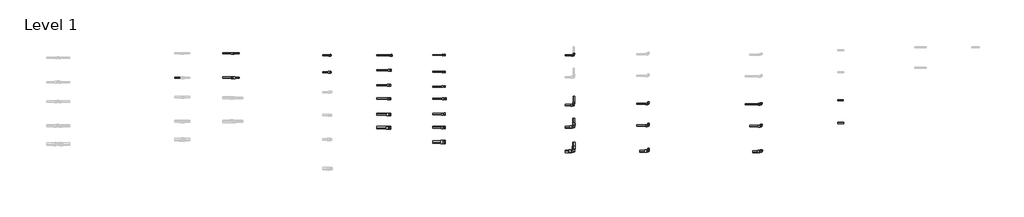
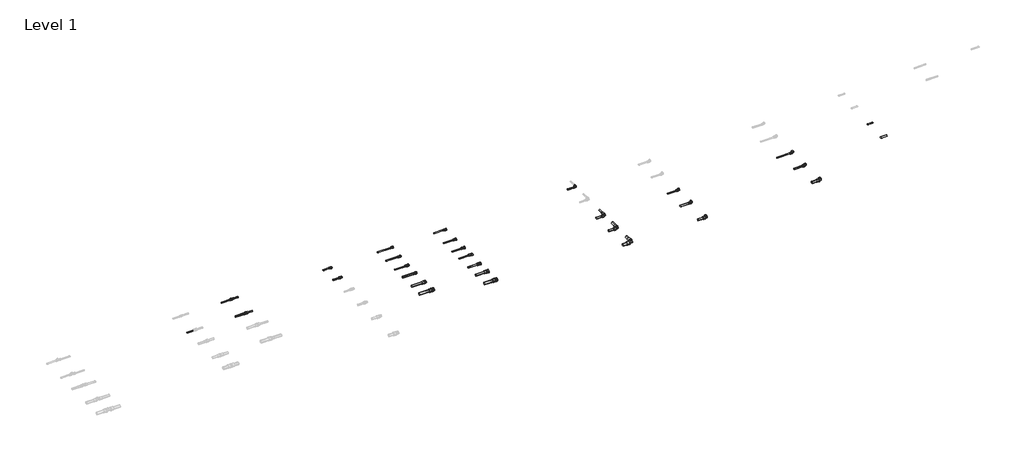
# One storey, part 5 of 78: 35 pipe segments, 27 pipe fittings.
"""IFC4 building model written with IfcOpenShell, lengths in millimetres."""

from ifc_helpers import new_model, si_unit, point, frame, frame_2d, origin, place, context, project, spatial, circle_curve, trimmed, segment, composite_curve, outline, extrude, transform, mapped, element, save
from components import pipe_fitting_bf755f27, pipe_fitting_e93012df, pipe_fitting_836a2278, pipe_fitting_b55198ad, pipe_fitting_310333dd, pipe_fitting_0b32e4b0, pipe_fitting_0562571e, pipe_fitting_38e91122, pipe_fitting_a340ff43, pipe_fitting_d52baa13, pipe_fitting_c8bca06d, pipe_fitting_5bbd4ca1, pipe_fitting_80b7091b, pipe_fitting_ce7225c3, pipe_fitting_5776f994, pipe_fitting_edf19c19, pipe_fitting_f2230aa0, pipe_fitting_b873231b, pipe_fitting_68aa3d98, pipe_fitting_ea484583, pipe_fitting_c3764643, pipe_fitting_108ee799, pipe_fitting_f8d70d0e, pipe_fitting_18fcccac, pipe_fitting_1e296f3b, pipe_fitting_f7ee4d9f, pipe_fitting_52b87474

model = new_model("IFC4")

# Units and contexts
model_context = context("Model", 3, world=origin())
ifc_project = project(units=[si_unit("LENGTHUNIT", "METRE", prefix="MILLI")], contexts=[model_context])

# Site, building, storey
site = spatial("IfcSite", under=ifc_project)
building = spatial("IfcBuilding", under=site)
storey = spatial("IfcBuildingStorey", under=building, Name="Level 1", Elevation=0.0)

# Pipe fittings
placement = place(None, origin())
pipe_fitting_shape = pipe_fitting_bf755f27(model_context)
element("IfcPipeFitting", 1, ObjectType="FASTLOC_Adapter with union nut LX : FSL A union nut PL", at=placement, inside=storey, context=model_context, shape_type="MappedRepresentation", body=[
    mapped(pipe_fitting_shape, transform((9398.6473432, -36725.8136389, 0.0), x_axis=(1.0, 0.0, 0.0), y_axis=(0.0, 1.0, 0.0), z_axis=(0.0, 0.0, 1.0))),
])
pipe_fitting_2_shape = pipe_fitting_e93012df(model_context)
element("IfcPipeFitting", 2, ObjectType="FASTLOC_Adapter_LX, with external thread : FSL A C external PL", at=placement, inside=storey, context=model_context, shape_type="MappedRepresentation", body=[
    mapped(pipe_fitting_2_shape, transform((7526.3785179, -35535.7057457, 0.0), x_axis=(1.0, 0.0, 0.0), y_axis=(0.0, 1.0, 0.0), z_axis=(0.0, 0.0, 1.0))),
])
pipe_fitting_3_shape = pipe_fitting_836a2278(model_context)
element("IfcPipeFitting", 3, ObjectType="FASTLOC_Adapter_LX, with internal thread : FSL A internal PL", at=placement, inside=storey, context=model_context, shape_type="MappedRepresentation", body=[
    mapped(pipe_fitting_3_shape, transform((8533.3731945, -35535.7057457, 0.0), x_axis=(1.0, 0.0, 0.0), y_axis=(0.0, 1.0, 0.0), z_axis=(0.0, 0.0, 1.0))),
])
pipe_fitting_4_shape = pipe_fitting_b55198ad(model_context)
element("IfcPipeFitting", 4, ObjectType="FASTLOC_Corner LX : FSL C LX PL", at=placement, inside=storey, context=model_context, shape_type="MappedRepresentation", body=[
    mapped(pipe_fitting_4_shape, transform((11545.4707441, -35538.8136389, 0.0), x_axis=(1.0, 0.0, 0.0), y_axis=(0.0, 1.0, 0.0), z_axis=(0.0, 0.0, 1.0))),
])
pipe_fitting_5_shape = pipe_fitting_310333dd(model_context)
element("IfcPipeFitting", 5, ObjectType="FASTLOC_Elbow with male thread LX : FSL A internal PL", at=placement, inside=storey, context=model_context, shape_type="MappedRepresentation", body=[
    mapped(pipe_fitting_5_shape, transform((12775.3768734, -36336.7136389, 0.0), x_axis=(1.0, 0.0, 0.0), y_axis=(0.0, 1.0, 0.0), z_axis=(0.0, 0.0, 1.0))),
])
pipe_fitting_6_shape = pipe_fitting_0b32e4b0(model_context)
element("IfcPipeFitting", 6, ObjectType="FASTLOC_Coupling reduced LX : FSL C LX PL", at=placement, inside=storey, context=model_context, shape_type="MappedRepresentation", body=[
    mapped(pipe_fitting_6_shape, transform((5926.6928556, -35505.8821283, 0.0), x_axis=(1.0, 0.0, 0.0), y_axis=(0.0, 1.0, 0.0), z_axis=(0.0, 0.0, 1.0))),
])
pipe_fitting_7_shape = pipe_fitting_0562571e(model_context)
element("IfcPipeFitting", 7, ObjectType="FASTLOC_Coupling reduced LX : FSL C LX PL", at=placement, inside=storey, context=model_context, shape_type="MappedRepresentation", body=[
    mapped(pipe_fitting_7_shape, transform((5926.6928556, -35905.8821283, 0.0), x_axis=(1.0, 0.0, 0.0), y_axis=(0.0, 1.0, 0.0), z_axis=(0.0, 0.0, 1.0))),
])
pipe_fitting_8_shape = pipe_fitting_38e91122(model_context)
element("IfcPipeFitting", 8, ObjectType="FASTLOC_Adapter_LX, with external thread : FSL A C external PL", at=placement, inside=storey, context=model_context, shape_type="MappedRepresentation", body=[
    mapped(pipe_fitting_8_shape, transform((7526.8953131, -35814.2068389, 0.0), x_axis=(1.0, 0.0, 0.0), y_axis=(0.0, 1.0, 0.0), z_axis=(0.0, 0.0, 1.0))),
])
pipe_fitting_9_shape = pipe_fitting_a340ff43(model_context)
element("IfcPipeFitting", 9, ObjectType="FASTLOC_Adapter with union nut LX : FSL A union nut PL", at=placement, inside=storey, context=model_context, shape_type="MappedRepresentation", body=[
    mapped(pipe_fitting_9_shape, transform((9398.6473432, -35810.8136389, 0.0), x_axis=(1.0, 0.0, 0.0), y_axis=(0.0, 1.0, 0.0), z_axis=(0.0, 0.0, 1.0))),
])
pipe_fitting_10_shape = pipe_fitting_d52baa13(model_context)
element("IfcPipeFitting", 10, ObjectType="FASTLOC_Adapter with union nut LX : FSL A union nut PL", at=placement, inside=storey, context=model_context, shape_type="MappedRepresentation", body=[
    mapped(pipe_fitting_10_shape, transform((9398.6473432, -36050.8136389, 0.0), x_axis=(1.0, 0.0, 0.0), y_axis=(0.0, 1.0, 0.0), z_axis=(0.0, 0.0, 1.0))),
])
pipe_fitting_11_shape = pipe_fitting_c8bca06d(model_context)
element("IfcPipeFitting", 11, ObjectType="FASTLOC_Adapter with union nut LX : FSL A union nut PL", at=placement, inside=storey, context=model_context, shape_type="MappedRepresentation", body=[
    mapped(pipe_fitting_11_shape, transform((9412.7894788, -36251.6715032, 0.0), x_axis=(1.0, 0.0, 0.0), y_axis=(0.0, 1.0, 0.0), z_axis=(0.0, 0.0, 1.0))),
])
pipe_fitting_12_shape = pipe_fitting_5bbd4ca1(model_context)
element("IfcPipeFitting", 12, ObjectType="FASTLOC_Adapter with union nut LX : FSL A union nut PL", at=placement, inside=storey, context=model_context, shape_type="MappedRepresentation", body=[
    mapped(pipe_fitting_12_shape, transform((9398.6473432, -36505.8136389, 0.0), x_axis=(1.0, 0.0, 0.0), y_axis=(0.0, 1.0, 0.0), z_axis=(0.0, 0.0, 1.0))),
])
pipe_fitting_13_shape = pipe_fitting_80b7091b(model_context)
element("IfcPipeFitting", 13, ObjectType="FASTLOC_Adapter with union nut LX : FSL A union nut PL", at=placement, inside=storey, context=model_context, shape_type="MappedRepresentation", body=[
    mapped(pipe_fitting_13_shape, transform((9398.6473432, -36965.8136389, 0.0), x_axis=(1.0, 0.0, 0.0), y_axis=(0.0, 1.0, 0.0), z_axis=(0.0, 0.0, 1.0))),
])
pipe_fitting_14_shape = pipe_fitting_ce7225c3(model_context)
element("IfcPipeFitting", 14, ObjectType="FASTLOC_Adapter with union nut LX : FSL A union nut PL", at=placement, inside=storey, context=model_context, shape_type="MappedRepresentation", body=[
    mapped(pipe_fitting_14_shape, transform((9398.6473432, -35530.8136389, 0.0), x_axis=(1.0, 0.0, 0.0), y_axis=(0.0, 1.0, 0.0), z_axis=(0.0, 0.0, 1.0))),
])
pipe_fitting_15_shape = pipe_fitting_5776f994(model_context)
element("IfcPipeFitting", 15, ObjectType="FASTLOC_Corner LX : FSL C LX PL", at=placement, inside=storey, context=model_context, shape_type="MappedRepresentation", body=[
    mapped(pipe_fitting_15_shape, transform((11545.4707441, -36358.8136389, 0.0), x_axis=(1.0, 0.0, 0.0), y_axis=(0.0, 1.0, 0.0), z_axis=(0.0, 0.0, 1.0))),
])
pipe_fitting_16_shape = pipe_fitting_edf19c19(model_context)
element("IfcPipeFitting", 16, ObjectType="FASTLOC_Corner LX : FSL C LX PL", at=placement, inside=storey, context=model_context, shape_type="MappedRepresentation", body=[
    mapped(pipe_fitting_16_shape, transform((11545.4707441, -36718.8136389, 0.0), x_axis=(1.0, 0.0, 0.0), y_axis=(0.0, 1.0, 0.0), z_axis=(0.0, 0.0, 1.0))),
])
pipe_fitting_17_shape = pipe_fitting_f2230aa0(model_context)
element("IfcPipeFitting", 17, ObjectType="FASTLOC_Corner LX : FSL C LX PL", at=placement, inside=storey, context=model_context, shape_type="MappedRepresentation", body=[
    mapped(pipe_fitting_17_shape, transform((11545.4707441, -37118.8136389, 0.0), x_axis=(1.0, 0.0, 0.0), y_axis=(0.0, 1.0, 0.0), z_axis=(0.0, 0.0, 1.0))),
])
pipe_fitting_18_shape = pipe_fitting_b873231b(model_context)
element("IfcPipeFitting", 18, ObjectType="FASTLOC_Elbow with male thread LX : FSL A internal PL", at=placement, inside=storey, context=model_context, shape_type="MappedRepresentation", body=[
    mapped(pipe_fitting_18_shape, transform((12775.3768734, -36696.7136389, 0.0), x_axis=(1.0, 0.0, 0.0), y_axis=(0.0, 1.0, 0.0), z_axis=(0.0, 0.0, 1.0))),
])
pipe_fitting_19_shape = pipe_fitting_68aa3d98(model_context)
element("IfcPipeFitting", 19, ObjectType="FASTLOC_Elbow with male thread LX : FSL A internal PL", at=placement, inside=storey, context=model_context, shape_type="MappedRepresentation", body=[
    mapped(pipe_fitting_19_shape, transform((12775.3768734, -37116.7136389, 0.0), x_axis=(1.0, 0.0, 0.0), y_axis=(0.0, 1.0, 0.0), z_axis=(0.0, 0.0, 1.0))),
])
pipe_fitting_20_shape = pipe_fitting_ea484583(model_context)
element("IfcPipeFitting", 20, ObjectType="FASTLOC_Elbow with female thread LX : FSL A internal PL", at=placement, inside=storey, context=model_context, shape_type="MappedRepresentation", body=[
    mapped(pipe_fitting_20_shape, transform((14636.9744513, -36704.4914884, 0.0), x_axis=(1.0, 0.0, 0.0), y_axis=(0.0, 1.0, 0.0), z_axis=(0.0, 0.0, 1.0))),
])
pipe_fitting_21_shape = pipe_fitting_c3764643(model_context)
element("IfcPipeFitting", 21, ObjectType="FASTLOC_Elbow with female thread LX : FSL A internal PL", at=placement, inside=storey, context=model_context, shape_type="MappedRepresentation", body=[
    mapped(pipe_fitting_21_shape, transform((14636.9744513, -37124.4914884, 0.0), x_axis=(1.0, 0.0, 0.0), y_axis=(0.0, 1.0, 0.0), z_axis=(0.0, 0.0, 1.0))),
])
pipe_fitting_22_shape = pipe_fitting_108ee799(model_context)
element("IfcPipeFitting", 22, ObjectType="FASTLOC_Elbow with female thread LX : FSL A internal PL", at=placement, inside=storey, context=model_context, shape_type="MappedRepresentation", body=[
    mapped(pipe_fitting_22_shape, transform((14636.9744513, -36344.4914884, 0.0), x_axis=(1.0, 0.0, 0.0), y_axis=(0.0, 1.0, 0.0), z_axis=(0.0, 0.0, 1.0))),
])
pipe_fitting_23_shape = pipe_fitting_f8d70d0e(model_context)
element("IfcPipeFitting", 23, ObjectType="FASTLOC_Adapter_LX, with internal thread : FSL A internal PL", at=placement, inside=storey, context=model_context, shape_type="MappedRepresentation", body=[
    mapped(pipe_fitting_23_shape, transform((8504.2310589, -36029.8478813, 0.0), x_axis=(1.0, 0.0, 0.0), y_axis=(0.0, 1.0, 0.0), z_axis=(0.0, 0.0, 1.0))),
])
pipe_fitting_24_shape = pipe_fitting_18fcccac(model_context)
element("IfcPipeFitting", 24, ObjectType="FASTLOC_Adapter_LX, with internal thread : FSL A internal PL", at=placement, inside=storey, context=model_context, shape_type="MappedRepresentation", body=[
    mapped(pipe_fitting_24_shape, transform((8504.2310589, -36249.8478813, 0.0), x_axis=(1.0, 0.0, 0.0), y_axis=(0.0, 1.0, 0.0), z_axis=(0.0, 0.0, 1.0))),
])
pipe_fitting_25_shape = pipe_fitting_1e296f3b(model_context)
element("IfcPipeFitting", 25, ObjectType="FASTLOC_Adapter_LX, with internal thread : FSL A internal PL", at=placement, inside=storey, context=model_context, shape_type="MappedRepresentation", body=[
    mapped(pipe_fitting_25_shape, transform((8504.2310589, -36509.8478813, 0.0), x_axis=(1.0, 0.0, 0.0), y_axis=(0.0, 1.0, 0.0), z_axis=(0.0, 0.0, 1.0))),
])
pipe_fitting_26_shape = pipe_fitting_f7ee4d9f(model_context)
element("IfcPipeFitting", 26, ObjectType="FASTLOC_Adapter_LX, with internal thread : FSL A internal PL", at=placement, inside=storey, context=model_context, shape_type="MappedRepresentation", body=[
    mapped(pipe_fitting_26_shape, transform((8520.9731945, -35782.1624685, 0.0), x_axis=(1.0, 0.0, 0.0), y_axis=(0.0, 1.0, 0.0), z_axis=(0.0, 0.0, 1.0))),
])
pipe_fitting_27_shape = pipe_fitting_52b87474(model_context)
element("IfcPipeFitting", 27, ObjectType="FASTLOC_Adapter_LX, with internal thread : FSL A internal PL", at=placement, inside=storey, context=model_context, shape_type="MappedRepresentation", body=[
    mapped(pipe_fitting_27_shape, transform((8504.2310589, -36729.8478813, 0.0), x_axis=(1.0, 0.0, 0.0), y_axis=(0.0, 1.0, 0.0), z_axis=(0.0, 0.0, 1.0))),
])

# Pipe segments
element("IfcPipeSegment", 28, ObjectType="FASTLOC LX ML PL bar", at=placement, inside=storey, context=model_context, shape_type="SweptSolid", body=[
    extrude(outline(composite_curve([segment(trimmed(circle_curve(frame_2d((-35905.8821283, 0.0)), 8.0), [point((-35897.8821283, 0.0))], [point((-35905.8821283, -8.0))], False, "CARTESIAN"), True, "CONTINUOUS"), segment(trimmed(circle_curve(frame_2d((-35905.8821283, 0.0)), 8.0), [point((-35905.8821283, -8.0))], [point((-35913.8821283, 0.0))], False, "CARTESIAN"), True, "CONTINUOUS"), segment(trimmed(circle_curve(frame_2d((-35905.8821283, 0.0)), 8.0), [point((-35913.8821283, 0.0))], [point((-35905.8821283, 8.0))], False, "CARTESIAN"), True, "CONTINUOUS"), segment(trimmed(circle_curve(frame_2d((-35905.8821283, 0.0)), 8.0), [point((-35905.8821283, 8.0))], [point((-35897.8821283, 0.0))], False, "CARTESIAN"), True, "CONTINUOUS")], self_intersect=False)), frame((4961.1790161, 0.0, 0.0), z_axis=(1.0, 0.0, 0.0), x_axis=(0.0, 1.0, 0.0)), (0.0, 0.0, 1.0), 119.8),
])
element("IfcPipeSegment", 29, ObjectType="FASTLOC LX ML PL bar", at=placement, inside=storey, context=model_context, shape_type="SweptSolid", body=[
    extrude(outline(composite_curve([segment(trimmed(circle_curve(frame_2d((-35505.8821283, 0.0)), 8.0), [point((-35513.8821283, 0.0))], [point((-35505.8821283, 8.0))], False, "CARTESIAN"), True, "CONTINUOUS"), segment(trimmed(circle_curve(frame_2d((-35505.8821283, 0.0)), 8.0), [point((-35505.8821283, 8.0))], [point((-35497.8821283, 0.0))], False, "CARTESIAN"), True, "CONTINUOUS"), segment(trimmed(circle_curve(frame_2d((-35505.8821283, 0.0)), 8.0), [point((-35497.8821283, 0.0))], [point((-35505.8821283, -8.0))], False, "CARTESIAN"), True, "CONTINUOUS"), segment(trimmed(circle_curve(frame_2d((-35505.8821283, 0.0)), 8.0), [point((-35505.8821283, -8.0))], [point((-35513.8821283, 0.0))], False, "CARTESIAN"), True, "CONTINUOUS")], self_intersect=False)), frame((5932.9928556, 0.0, 0.0), z_axis=(1.0, 0.0, 0.0), x_axis=(0.0, 1.0, 0.0)), (0.0, 0.0, 1.0), 95.0),
])
element("IfcPipeSegment", 30, ObjectType="FASTLOC LX ML PL bar", at=placement, inside=storey, context=model_context, shape_type="SweptSolid", body=[
    extrude(outline(composite_curve([segment(trimmed(circle_curve(frame_2d((-35505.8821283, 0.0)), 8.0), [point((-35497.8821283, 0.0))], [point((-35505.8821283, -8.0))], False, "CARTESIAN"), True, "CONTINUOUS"), segment(trimmed(circle_curve(frame_2d((-35505.8821283, 0.0)), 8.0), [point((-35505.8821283, -8.0))], [point((-35513.8821283, 0.0))], False, "CARTESIAN"), True, "CONTINUOUS"), segment(trimmed(circle_curve(frame_2d((-35505.8821283, 0.0)), 8.0), [point((-35513.8821283, 0.0))], [point((-35505.8821283, 8.0))], False, "CARTESIAN"), True, "CONTINUOUS"), segment(trimmed(circle_curve(frame_2d((-35505.8821283, 0.0)), 8.0), [point((-35505.8821283, 8.0))], [point((-35497.8821283, 0.0))], False, "CARTESIAN"), True, "CONTINUOUS")], self_intersect=False)), frame((5752.9928556, 0.0, 0.0), z_axis=(1.0, 0.0, 0.0), x_axis=(0.0, 1.0, 0.0)), (0.0, 0.0, 1.0), 165.0),
])
element("IfcPipeSegment", 31, ObjectType="FASTLOC LX ML PL bar", at=placement, inside=storey, context=model_context, shape_type="SweptSolid", body=[
    extrude(outline(composite_curve([segment(trimmed(circle_curve(frame_2d((-35905.8821283, 0.0)), 12.5), [point((-35893.3821283, 0.0))], [point((-35905.8821283, -12.5))], False, "CARTESIAN"), True, "CONTINUOUS"), segment(trimmed(circle_curve(frame_2d((-35905.8821283, 0.0)), 12.5), [point((-35905.8821283, -12.5))], [point((-35918.3821283, 0.0))], False, "CARTESIAN"), True, "CONTINUOUS"), segment(trimmed(circle_curve(frame_2d((-35905.8821283, 0.0)), 12.5), [point((-35918.3821283, 0.0))], [point((-35905.8821283, 12.5))], False, "CARTESIAN"), True, "CONTINUOUS"), segment(trimmed(circle_curve(frame_2d((-35905.8821283, 0.0)), 12.5), [point((-35905.8821283, 12.5))], [point((-35893.3821283, 0.0))], False, "CARTESIAN"), True, "CONTINUOUS")], self_intersect=False)), frame((5752.9928556, 0.0, 0.0), z_axis=(1.0, 0.0, 0.0), x_axis=(0.0, 1.0, 0.0)), (0.0, 0.0, 1.0), 163.9),
])
element("IfcPipeSegment", 32, ObjectType="FASTLOC LX ML PL bar", at=placement, inside=storey, context=model_context, shape_type="SweptSolid", body=[
    extrude(outline(composite_curve([segment(trimmed(circle_curve(frame_2d((-35905.8821283, 0.0)), 8.0), [point((-35913.8821283, 0.0))], [point((-35905.8821283, 8.0))], False, "CARTESIAN"), True, "CONTINUOUS"), segment(trimmed(circle_curve(frame_2d((-35905.8821283, 0.0)), 8.0), [point((-35905.8821283, 8.0))], [point((-35897.8821283, 0.0))], False, "CARTESIAN"), True, "CONTINUOUS"), segment(trimmed(circle_curve(frame_2d((-35905.8821283, 0.0)), 8.0), [point((-35897.8821283, 0.0))], [point((-35905.8821283, -8.0))], False, "CARTESIAN"), True, "CONTINUOUS"), segment(trimmed(circle_curve(frame_2d((-35905.8821283, 0.0)), 8.0), [point((-35905.8821283, -8.0))], [point((-35913.8821283, 0.0))], False, "CARTESIAN"), True, "CONTINUOUS")], self_intersect=False)), frame((5932.3928556, 0.0, 0.0), z_axis=(1.0, 0.0, 0.0), x_axis=(0.0, 1.0, 0.0)), (0.0, 0.0, 1.0), 95.6),
])
element("IfcPipeSegment", 33, ObjectType="FASTLOC LX ML PL bar", at=placement, inside=storey, context=model_context, shape_type="SweptSolid", body=[
    extrude(outline(composite_curve([segment(trimmed(circle_curve(frame_2d((-35535.7057457, 0.0)), 8.0), [point((-35527.7057457, 0.0))], [point((-35535.7057457, -8.0))], False, "CARTESIAN"), True, "CONTINUOUS"), segment(trimmed(circle_curve(frame_2d((-35535.7057457, 0.0)), 8.0), [point((-35535.7057457, -8.0))], [point((-35543.7057457, 0.0))], False, "CARTESIAN"), True, "CONTINUOUS"), segment(trimmed(circle_curve(frame_2d((-35535.7057457, 0.0)), 8.0), [point((-35543.7057457, 0.0))], [point((-35535.7057457, 8.0))], False, "CARTESIAN"), True, "CONTINUOUS"), segment(trimmed(circle_curve(frame_2d((-35535.7057457, 0.0)), 8.0), [point((-35535.7057457, 8.0))], [point((-35527.7057457, 0.0))], False, "CARTESIAN"), True, "CONTINUOUS")], self_intersect=False)), frame((7402.0785179, 0.0, 0.0), z_axis=(1.0, 0.0, 0.0), x_axis=(0.0, 1.0, 0.0)), (0.0, 0.0, 1.0), 115.4),
])
element("IfcPipeSegment", 34, ObjectType="FASTLOC LX ML PL bar", at=placement, inside=storey, context=model_context, shape_type="SweptSolid", body=[
    extrude(outline(composite_curve([segment(trimmed(circle_curve(frame_2d((-35814.2068389, 0.0)), 8.0), [point((-35806.2068389, 0.0))], [point((-35814.2068389, -8.0))], False, "CARTESIAN"), True, "CONTINUOUS"), segment(trimmed(circle_curve(frame_2d((-35814.2068389, 0.0)), 8.0), [point((-35814.2068389, -8.0))], [point((-35822.2068389, 0.0))], False, "CARTESIAN"), True, "CONTINUOUS"), segment(trimmed(circle_curve(frame_2d((-35814.2068389, 0.0)), 8.0), [point((-35822.2068389, 0.0))], [point((-35814.2068389, 8.0))], False, "CARTESIAN"), True, "CONTINUOUS"), segment(trimmed(circle_curve(frame_2d((-35814.2068389, 0.0)), 8.0), [point((-35814.2068389, 8.0))], [point((-35806.2068389, 0.0))], False, "CARTESIAN"), True, "CONTINUOUS")], self_intersect=False)), frame((7402.0785179, 0.0, 0.0), z_axis=(1.0, 0.0, 0.0), x_axis=(0.0, 1.0, 0.0)), (0.0, 0.0, 1.0), 116.1167951),
])
element("IfcPipeSegment", 35, ObjectType="FASTLOC LX ML PL bar", at=placement, inside=storey, context=model_context, shape_type="SweptSolid", body=[
    extrude(outline(composite_curve([segment(trimmed(circle_curve(frame_2d((-35538.8136389, 0.0)), 8.0), [point((-35530.8136389, 0.0))], [point((-35538.8136389, -8.0))], False, "CARTESIAN"), True, "CONTINUOUS"), segment(trimmed(circle_curve(frame_2d((-35538.8136389, 0.0)), 8.0), [point((-35538.8136389, -8.0))], [point((-35546.8136389, 0.0))], False, "CARTESIAN"), True, "CONTINUOUS"), segment(trimmed(circle_curve(frame_2d((-35538.8136389, 0.0)), 8.0), [point((-35546.8136389, 0.0))], [point((-35538.8136389, 8.0))], False, "CARTESIAN"), True, "CONTINUOUS"), segment(trimmed(circle_curve(frame_2d((-35538.8136389, 0.0)), 8.0), [point((-35538.8136389, 8.0))], [point((-35530.8136389, 0.0))], False, "CARTESIAN"), True, "CONTINUOUS")], self_intersect=False)), frame((11403.3707441, 0.0, 0.0), z_axis=(1.0, 0.0, 0.0), x_axis=(0.0, 1.0, 0.0)), (0.0, 0.0, 1.0), 120.0),
])
element("IfcPipeSegment", 36, ObjectType="FASTLOC LX ML PL bar", at=placement, inside=storey, context=model_context, shape_type="SweptSolid", body=[
    extrude(outline(composite_curve([segment(trimmed(circle_curve(frame_2d((-36358.8136389, 0.0)), 12.5), [point((-36346.3136389, 0.0))], [point((-36358.8136389, -12.5))], False, "CARTESIAN"), True, "CONTINUOUS"), segment(trimmed(circle_curve(frame_2d((-36358.8136389, 0.0)), 12.5), [point((-36358.8136389, -12.5))], [point((-36371.3136389, 0.0))], False, "CARTESIAN"), True, "CONTINUOUS"), segment(trimmed(circle_curve(frame_2d((-36358.8136389, 0.0)), 12.5), [point((-36371.3136389, 0.0))], [point((-36358.8136389, 12.5))], False, "CARTESIAN"), True, "CONTINUOUS"), segment(trimmed(circle_curve(frame_2d((-36358.8136389, 0.0)), 12.5), [point((-36358.8136389, 12.5))], [point((-36346.3136389, 0.0))], False, "CARTESIAN"), True, "CONTINUOUS")], self_intersect=False)), frame((11403.3707441, 0.0, 0.0), z_axis=(1.0, 0.0, 0.0), x_axis=(0.0, 1.0, 0.0)), (0.0, 0.0, 1.0), 113.1),
])
element("IfcPipeSegment", 37, ObjectType="FASTLOC LX ML PL bar", at=placement, inside=storey, context=model_context, shape_type="SweptSolid", body=[
    extrude(outline(composite_curve([segment(trimmed(circle_curve(frame_2d((0.0, 11545.4707441)), 12.5), [point((0.0, 11557.9707441))], [point((12.5, 11545.4707441))], False, "CARTESIAN"), True, "CONTINUOUS"), segment(trimmed(circle_curve(frame_2d((0.0, 11545.4707441)), 12.5), [point((12.5, 11545.4707441))], [point((0.0, 11532.9707441))], False, "CARTESIAN"), True, "CONTINUOUS"), segment(trimmed(circle_curve(frame_2d((0.0, 11545.4707441)), 12.5), [point((0.0, 11532.9707441))], [point((-12.5, 11545.4707441))], False, "CARTESIAN"), True, "CONTINUOUS"), segment(trimmed(circle_curve(frame_2d((0.0, 11545.4707441)), 12.5), [point((-12.5, 11545.4707441))], [point((0.0, 11557.9707441))], False, "CARTESIAN"), True, "CONTINUOUS")], self_intersect=False)), frame((0.0, -36329.8136389, 0.0), z_axis=(0.0, 1.0, 0.0), x_axis=(0.0, 0.0, 1.0)), (0.0, 0.0, 1.0), 118.1),
])
element("IfcPipeSegment", 38, ObjectType="FASTLOC LX ML PL bar", at=placement, inside=storey, context=model_context, shape_type="SweptSolid", body=[
    extrude(outline(composite_curve([segment(trimmed(circle_curve(frame_2d((-36718.8136389, 0.0)), 16.0), [point((-36702.8136389, 0.0))], [point((-36718.8136389, -16.0))], False, "CARTESIAN"), True, "CONTINUOUS"), segment(trimmed(circle_curve(frame_2d((-36718.8136389, 0.0)), 16.0), [point((-36718.8136389, -16.0))], [point((-36734.8136389, 0.0))], False, "CARTESIAN"), True, "CONTINUOUS"), segment(trimmed(circle_curve(frame_2d((-36718.8136389, 0.0)), 16.0), [point((-36734.8136389, 0.0))], [point((-36718.8136389, 16.0))], False, "CARTESIAN"), True, "CONTINUOUS"), segment(trimmed(circle_curve(frame_2d((-36718.8136389, 0.0)), 16.0), [point((-36718.8136389, 16.0))], [point((-36702.8136389, 0.0))], False, "CARTESIAN"), True, "CONTINUOUS")], self_intersect=False)), frame((11403.3707441, 0.0, 0.0), z_axis=(1.0, 0.0, 0.0), x_axis=(0.0, 1.0, 0.0)), (0.0, 0.0, 1.0), 107.1),
])
element("IfcPipeSegment", 39, ObjectType="FASTLOC LX ML PL bar", at=placement, inside=storey, context=model_context, shape_type="SweptSolid", body=[
    extrude(outline(composite_curve([segment(trimmed(circle_curve(frame_2d((0.0, 11545.4707441)), 16.0), [point((0.0, 11561.4707441))], [point((16.0, 11545.4707441))], False, "CARTESIAN"), True, "CONTINUOUS"), segment(trimmed(circle_curve(frame_2d((0.0, 11545.4707441)), 16.0), [point((16.0, 11545.4707441))], [point((0.0, 11529.4707441))], False, "CARTESIAN"), True, "CONTINUOUS"), segment(trimmed(circle_curve(frame_2d((0.0, 11545.4707441)), 16.0), [point((0.0, 11529.4707441))], [point((-16.0, 11545.4707441))], False, "CARTESIAN"), True, "CONTINUOUS"), segment(trimmed(circle_curve(frame_2d((0.0, 11545.4707441)), 16.0), [point((-16.0, 11545.4707441))], [point((0.0, 11561.4707441))], False, "CARTESIAN"), True, "CONTINUOUS")], self_intersect=False)), frame((0.0, -36683.8136389, 0.0), z_axis=(0.0, 1.0, 0.0), x_axis=(0.0, 0.0, 1.0)), (0.0, 0.0, 1.0), 112.1),
])
element("IfcPipeSegment", 40, ObjectType="FASTLOC LX ML PL bar", at=placement, inside=storey, context=model_context, shape_type="SweptSolid", body=[
    extrude(outline(composite_curve([segment(trimmed(circle_curve(frame_2d((-37118.8136389, 0.0)), 20.0), [point((-37098.8136389, 0.0))], [point((-37118.8136389, -20.0))], False, "CARTESIAN"), True, "CONTINUOUS"), segment(trimmed(circle_curve(frame_2d((-37118.8136389, 0.0)), 20.0), [point((-37118.8136389, -20.0))], [point((-37138.8136389, 0.0))], False, "CARTESIAN"), True, "CONTINUOUS"), segment(trimmed(circle_curve(frame_2d((-37118.8136389, 0.0)), 20.0), [point((-37138.8136389, 0.0))], [point((-37118.8136389, 20.0))], False, "CARTESIAN"), True, "CONTINUOUS"), segment(trimmed(circle_curve(frame_2d((-37118.8136389, 0.0)), 20.0), [point((-37118.8136389, 20.0))], [point((-37098.8136389, 0.0))], False, "CARTESIAN"), True, "CONTINUOUS")], self_intersect=False)), frame((11403.3707441, 0.0, 0.0), z_axis=(1.0, 0.0, 0.0), x_axis=(0.0, 1.0, 0.0)), (0.0, 0.0, 1.0), 97.4),
])
element("IfcPipeSegment", 41, ObjectType="FASTLOC LX ML PL bar", at=placement, inside=storey, context=model_context, shape_type="SweptSolid", body=[
    extrude(outline(composite_curve([segment(trimmed(circle_curve(frame_2d((0.0, 11545.4707441)), 20.0), [point((0.0, 11565.4707441))], [point((20.0, 11545.4707441))], False, "CARTESIAN"), True, "CONTINUOUS"), segment(trimmed(circle_curve(frame_2d((0.0, 11545.4707441)), 20.0), [point((20.0, 11545.4707441))], [point((0.0, 11525.4707441))], False, "CARTESIAN"), True, "CONTINUOUS"), segment(trimmed(circle_curve(frame_2d((0.0, 11545.4707441)), 20.0), [point((0.0, 11525.4707441))], [point((-20.0, 11545.4707441))], False, "CARTESIAN"), True, "CONTINUOUS"), segment(trimmed(circle_curve(frame_2d((0.0, 11545.4707441)), 20.0), [point((-20.0, 11545.4707441))], [point((0.0, 11565.4707441))], False, "CARTESIAN"), True, "CONTINUOUS")], self_intersect=False)), frame((0.0, -37074.1136389, 0.0), z_axis=(0.0, 1.0, 0.0), x_axis=(0.0, 0.0, 1.0)), (0.0, 0.0, 1.0), 102.4),
])
element("IfcPipeSegment", 42, ObjectType="FASTLOC LX ML PL bar", at=placement, inside=storey, context=model_context, shape_type="SweptSolid", body=[
    extrude(outline(composite_curve([segment(trimmed(circle_curve(frame_2d((-36274.4604595, 0.0)), 8.0), [point((-36266.4604595, 0.0))], [point((-36274.4604595, -8.0))], False, "CARTESIAN"), True, "CONTINUOUS"), segment(trimmed(circle_curve(frame_2d((-36274.4604595, 0.0)), 8.0), [point((-36274.4604595, -8.0))], [point((-36282.4604595, 0.0))], False, "CARTESIAN"), True, "CONTINUOUS"), segment(trimmed(circle_curve(frame_2d((-36274.4604595, 0.0)), 8.0), [point((-36282.4604595, 0.0))], [point((-36274.4604595, 8.0))], False, "CARTESIAN"), True, "CONTINUOUS"), segment(trimmed(circle_curve(frame_2d((-36274.4604595, 0.0)), 8.0), [point((-36274.4604595, 8.0))], [point((-36266.4604595, 0.0))], False, "CARTESIAN"), True, "CONTINUOUS")], self_intersect=False)), frame((15898.9809397, 0.0, 0.0), z_axis=(1.0, 0.0, 0.0), x_axis=(0.0, 1.0, 0.0)), (0.0, 0.0, 1.0), 86.3),
])
element("IfcPipeSegment", 43, ObjectType="FASTLOC LX ML PL bar", at=placement, inside=storey, context=model_context, shape_type="SweptSolid", body=[
    extrude(outline(composite_curve([segment(trimmed(circle_curve(frame_2d((-36650.4604595, 0.0)), 12.5), [point((-36637.9604595, 0.0))], [point((-36650.4604595, -12.5))], False, "CARTESIAN"), True, "CONTINUOUS"), segment(trimmed(circle_curve(frame_2d((-36650.4604595, 0.0)), 12.5), [point((-36650.4604595, -12.5))], [point((-36662.9604595, 0.0))], False, "CARTESIAN"), True, "CONTINUOUS"), segment(trimmed(circle_curve(frame_2d((-36650.4604595, 0.0)), 12.5), [point((-36662.9604595, 0.0))], [point((-36650.4604595, 12.5))], False, "CARTESIAN"), True, "CONTINUOUS"), segment(trimmed(circle_curve(frame_2d((-36650.4604595, 0.0)), 12.5), [point((-36650.4604595, 12.5))], [point((-36637.9604595, 0.0))], False, "CARTESIAN"), True, "CONTINUOUS")], self_intersect=False)), frame((15898.9809397, 0.0, 0.0), z_axis=(1.0, 0.0, 0.0), x_axis=(0.0, 1.0, 0.0)), (0.0, 0.0, 1.0), 95.4),
])
element("IfcPipeSegment", 44, ObjectType="FASTLOC LX ML PL bar", at=placement, inside=storey, context=model_context, shape_type="SweptSolid", body=[
    extrude(outline(composite_curve([segment(trimmed(circle_curve(frame_2d((-36704.4914884, 0.0)), 12.5), [point((-36691.9914884, 0.0))], [point((-36704.4914884, -12.5))], False, "CARTESIAN"), True, "CONTINUOUS"), segment(trimmed(circle_curve(frame_2d((-36704.4914884, 0.0)), 12.5), [point((-36704.4914884, -12.5))], [point((-36716.9914884, 0.0))], False, "CARTESIAN"), True, "CONTINUOUS"), segment(trimmed(circle_curve(frame_2d((-36704.4914884, 0.0)), 12.5), [point((-36716.9914884, 0.0))], [point((-36704.4914884, 12.5))], False, "CARTESIAN"), True, "CONTINUOUS"), segment(trimmed(circle_curve(frame_2d((-36704.4914884, 0.0)), 12.5), [point((-36704.4914884, 12.5))], [point((-36691.9914884, 0.0))], False, "CARTESIAN"), True, "CONTINUOUS")], self_intersect=False)), frame((14446.7744513, 0.0, 0.0), z_axis=(1.0, 0.0, 0.0), x_axis=(0.0, 1.0, 0.0)), (0.0, 0.0, 1.0), 163.2),
])
element("IfcPipeSegment", 45, ObjectType="FASTLOC LX ML PL bar", at=placement, inside=storey, context=model_context, shape_type="SweptSolid", body=[
    extrude(outline(composite_curve([segment(trimmed(circle_curve(frame_2d((-37124.4914884, 0.0)), 16.0), [point((-37108.4914884, 0.0))], [point((-37124.4914884, -16.0))], False, "CARTESIAN"), True, "CONTINUOUS"), segment(trimmed(circle_curve(frame_2d((-37124.4914884, 0.0)), 16.0), [point((-37124.4914884, -16.0))], [point((-37140.4914884, 0.0))], False, "CARTESIAN"), True, "CONTINUOUS"), segment(trimmed(circle_curve(frame_2d((-37124.4914884, 0.0)), 16.0), [point((-37140.4914884, 0.0))], [point((-37124.4914884, 16.0))], False, "CARTESIAN"), True, "CONTINUOUS"), segment(trimmed(circle_curve(frame_2d((-37124.4914884, 0.0)), 16.0), [point((-37124.4914884, 16.0))], [point((-37108.4914884, 0.0))], False, "CARTESIAN"), True, "CONTINUOUS")], self_intersect=False)), frame((14494.8744513, 0.0, 0.0), z_axis=(1.0, 0.0, 0.0), x_axis=(0.0, 1.0, 0.0)), (0.0, 0.0, 1.0), 110.1),
])
element("IfcPipeSegment", 46, ObjectType="FASTLOC LX ML PL bar", at=placement, inside=storey, context=model_context, shape_type="SweptSolid", body=[
    extrude(outline(composite_curve([segment(trimmed(circle_curve(frame_2d((-35535.7057457, 0.0)), 8.0), [point((-35527.7057457, 0.0))], [point((-35535.7057457, -8.0))], False, "CARTESIAN"), True, "CONTINUOUS"), segment(trimmed(circle_curve(frame_2d((-35535.7057457, 0.0)), 8.0), [point((-35535.7057457, -8.0))], [point((-35543.7057457, 0.0))], False, "CARTESIAN"), True, "CONTINUOUS"), segment(trimmed(circle_curve(frame_2d((-35535.7057457, 0.0)), 8.0), [point((-35543.7057457, 0.0))], [point((-35535.7057457, 8.0))], False, "CARTESIAN"), True, "CONTINUOUS"), segment(trimmed(circle_curve(frame_2d((-35535.7057457, 0.0)), 8.0), [point((-35535.7057457, 8.0))], [point((-35527.7057457, 0.0))], False, "CARTESIAN"), True, "CONTINUOUS")], self_intersect=False)), frame((8291.8310589, 0.0, 0.0), z_axis=(1.0, 0.0, 0.0), x_axis=(0.0, 1.0, 0.0)), (0.0, 0.0, 1.0), 229.1421356),
])
element("IfcPipeSegment", 47, ObjectType="FASTLOC LX ML PL bar", at=placement, inside=storey, context=model_context, shape_type="SweptSolid", body=[
    extrude(outline(composite_curve([segment(trimmed(circle_curve(frame_2d((-35782.1624685, 0.0)), 8.0), [point((-35774.1624685, 0.0))], [point((-35782.1624685, -8.0))], False, "CARTESIAN"), True, "CONTINUOUS"), segment(trimmed(circle_curve(frame_2d((-35782.1624685, 0.0)), 8.0), [point((-35782.1624685, -8.0))], [point((-35790.1624685, 0.0))], False, "CARTESIAN"), True, "CONTINUOUS"), segment(trimmed(circle_curve(frame_2d((-35782.1624685, 0.0)), 8.0), [point((-35790.1624685, 0.0))], [point((-35782.1624685, 8.0))], False, "CARTESIAN"), True, "CONTINUOUS"), segment(trimmed(circle_curve(frame_2d((-35782.1624685, 0.0)), 8.0), [point((-35782.1624685, 8.0))], [point((-35774.1624685, 0.0))], False, "CARTESIAN"), True, "CONTINUOUS")], self_intersect=False)), frame((8291.8310589, 0.0, 0.0), z_axis=(1.0, 0.0, 0.0), x_axis=(0.0, 1.0, 0.0)), (0.0, 0.0, 1.0), 217.4421356),
])
element("IfcPipeSegment", 48, ObjectType="FASTLOC LX ML PL bar", at=placement, inside=storey, context=model_context, shape_type="SweptSolid", body=[
    extrude(outline(composite_curve([segment(trimmed(circle_curve(frame_2d((-36029.8478813, 0.0)), 8.0), [point((-36021.8478813, 0.0))], [point((-36029.8478813, -8.0))], False, "CARTESIAN"), True, "CONTINUOUS"), segment(trimmed(circle_curve(frame_2d((-36029.8478813, 0.0)), 8.0), [point((-36029.8478813, -8.0))], [point((-36037.8478813, 0.0))], False, "CARTESIAN"), True, "CONTINUOUS"), segment(trimmed(circle_curve(frame_2d((-36029.8478813, 0.0)), 8.0), [point((-36037.8478813, 0.0))], [point((-36029.8478813, 8.0))], False, "CARTESIAN"), True, "CONTINUOUS"), segment(trimmed(circle_curve(frame_2d((-36029.8478813, 0.0)), 8.0), [point((-36029.8478813, 8.0))], [point((-36021.8478813, 0.0))], False, "CARTESIAN"), True, "CONTINUOUS")], self_intersect=False)), frame((8291.8310589, 0.0, 0.0), z_axis=(1.0, 0.0, 0.0), x_axis=(0.0, 1.0, 0.0)), (0.0, 0.0, 1.0), 199.1),
])
element("IfcPipeSegment", 49, ObjectType="FASTLOC LX ML PL bar", at=placement, inside=storey, context=model_context, shape_type="SweptSolid", body=[
    extrude(outline(composite_curve([segment(trimmed(circle_curve(frame_2d((-36249.8478813, 0.0)), 12.5), [point((-36237.3478813, 0.0))], [point((-36249.8478813, -12.5))], False, "CARTESIAN"), True, "CONTINUOUS"), segment(trimmed(circle_curve(frame_2d((-36249.8478813, 0.0)), 12.5), [point((-36249.8478813, -12.5))], [point((-36262.3478813, 0.0))], False, "CARTESIAN"), True, "CONTINUOUS"), segment(trimmed(circle_curve(frame_2d((-36249.8478813, 0.0)), 12.5), [point((-36262.3478813, 0.0))], [point((-36249.8478813, 12.5))], False, "CARTESIAN"), True, "CONTINUOUS"), segment(trimmed(circle_curve(frame_2d((-36249.8478813, 0.0)), 12.5), [point((-36249.8478813, 12.5))], [point((-36237.3478813, 0.0))], False, "CARTESIAN"), True, "CONTINUOUS")], self_intersect=False)), frame((8291.8310589, 0.0, 0.0), z_axis=(1.0, 0.0, 0.0), x_axis=(0.0, 1.0, 0.0)), (0.0, 0.0, 1.0), 199.5),
])
element("IfcPipeSegment", 50, ObjectType="FASTLOC LX ML PL bar", at=placement, inside=storey, context=model_context, shape_type="SweptSolid", body=[
    extrude(outline(composite_curve([segment(trimmed(circle_curve(frame_2d((-36509.8478813, 0.0)), 16.0), [point((-36493.8478813, 0.0))], [point((-36509.8478813, -16.0))], False, "CARTESIAN"), True, "CONTINUOUS"), segment(trimmed(circle_curve(frame_2d((-36509.8478813, 0.0)), 16.0), [point((-36509.8478813, -16.0))], [point((-36525.8478813, 0.0))], False, "CARTESIAN"), True, "CONTINUOUS"), segment(trimmed(circle_curve(frame_2d((-36509.8478813, 0.0)), 16.0), [point((-36525.8478813, 0.0))], [point((-36509.8478813, 16.0))], False, "CARTESIAN"), True, "CONTINUOUS"), segment(trimmed(circle_curve(frame_2d((-36509.8478813, 0.0)), 16.0), [point((-36509.8478813, 16.0))], [point((-36493.8478813, 0.0))], False, "CARTESIAN"), True, "CONTINUOUS")], self_intersect=False)), frame((8291.8310589, 0.0, 0.0), z_axis=(1.0, 0.0, 0.0), x_axis=(0.0, 1.0, 0.0)), (0.0, 0.0, 1.0), 197.9),
])
element("IfcPipeSegment", 51, ObjectType="FASTLOC LX ML PL bar", at=placement, inside=storey, context=model_context, shape_type="SweptSolid", body=[
    extrude(outline(composite_curve([segment(trimmed(circle_curve(frame_2d((-36729.8478813, 0.0)), 20.0), [point((-36709.8478813, 0.0))], [point((-36729.8478813, -20.0))], False, "CARTESIAN"), True, "CONTINUOUS"), segment(trimmed(circle_curve(frame_2d((-36729.8478813, 0.0)), 20.0), [point((-36729.8478813, -20.0))], [point((-36749.8478813, 0.0))], False, "CARTESIAN"), True, "CONTINUOUS"), segment(trimmed(circle_curve(frame_2d((-36729.8478813, 0.0)), 20.0), [point((-36749.8478813, 0.0))], [point((-36729.8478813, 20.0))], False, "CARTESIAN"), True, "CONTINUOUS"), segment(trimmed(circle_curve(frame_2d((-36729.8478813, 0.0)), 20.0), [point((-36729.8478813, 20.0))], [point((-36709.8478813, 0.0))], False, "CARTESIAN"), True, "CONTINUOUS")], self_intersect=False)), frame((8291.8310589, 0.0, 0.0), z_axis=(1.0, 0.0, 0.0), x_axis=(0.0, 1.0, 0.0)), (0.0, 0.0, 1.0), 192.4),
])
element("IfcPipeSegment", 52, ObjectType="FASTLOC LX ML PL bar", at=placement, inside=storey, context=model_context, shape_type="SweptSolid", body=[
    extrude(outline(composite_curve([segment(trimmed(circle_curve(frame_2d((-35810.8136389, 0.0)), 8.0), [point((-35802.8136389, 0.0))], [point((-35810.8136389, -8.0))], False, "CARTESIAN"), True, "CONTINUOUS"), segment(trimmed(circle_curve(frame_2d((-35810.8136389, 0.0)), 8.0), [point((-35810.8136389, -8.0))], [point((-35818.8136389, 0.0))], False, "CARTESIAN"), True, "CONTINUOUS"), segment(trimmed(circle_curve(frame_2d((-35810.8136389, 0.0)), 8.0), [point((-35818.8136389, 0.0))], [point((-35810.8136389, 8.0))], False, "CARTESIAN"), True, "CONTINUOUS"), segment(trimmed(circle_curve(frame_2d((-35810.8136389, 0.0)), 8.0), [point((-35810.8136389, 8.0))], [point((-35802.8136389, 0.0))], False, "CARTESIAN"), True, "CONTINUOUS")], self_intersect=False)), frame((9219.6473432, 0.0, 0.0), z_axis=(1.0, 0.0, 0.0), x_axis=(0.0, 1.0, 0.0)), (0.0, 0.0, 1.0), 170.0),
])
element("IfcPipeSegment", 53, ObjectType="FASTLOC LX ML PL bar", at=placement, inside=storey, context=model_context, shape_type="SweptSolid", body=[
    extrude(outline(composite_curve([segment(trimmed(circle_curve(frame_2d((-36050.8136389, 0.0)), 8.0), [point((-36042.8136389, 0.0))], [point((-36050.8136389, -8.0))], False, "CARTESIAN"), True, "CONTINUOUS"), segment(trimmed(circle_curve(frame_2d((-36050.8136389, 0.0)), 8.0), [point((-36050.8136389, -8.0))], [point((-36058.8136389, 0.0))], False, "CARTESIAN"), True, "CONTINUOUS"), segment(trimmed(circle_curve(frame_2d((-36050.8136389, 0.0)), 8.0), [point((-36058.8136389, 0.0))], [point((-36050.8136389, 8.0))], False, "CARTESIAN"), True, "CONTINUOUS"), segment(trimmed(circle_curve(frame_2d((-36050.8136389, 0.0)), 8.0), [point((-36050.8136389, 8.0))], [point((-36042.8136389, 0.0))], False, "CARTESIAN"), True, "CONTINUOUS")], self_intersect=False)), frame((9219.6473432, 0.0, 0.0), z_axis=(1.0, 0.0, 0.0), x_axis=(0.0, 1.0, 0.0)), (0.0, 0.0, 1.0), 170.0),
])
element("IfcPipeSegment", 54, ObjectType="FASTLOC LX ML PL bar", at=placement, inside=storey, context=model_context, shape_type="SweptSolid", body=[
    extrude(outline(composite_curve([segment(trimmed(circle_curve(frame_2d((-36505.8136389, 0.0)), 12.5), [point((-36493.3136389, 0.0))], [point((-36505.8136389, -12.5))], False, "CARTESIAN"), True, "CONTINUOUS"), segment(trimmed(circle_curve(frame_2d((-36505.8136389, 0.0)), 12.5), [point((-36505.8136389, -12.5))], [point((-36518.3136389, 0.0))], False, "CARTESIAN"), True, "CONTINUOUS"), segment(trimmed(circle_curve(frame_2d((-36505.8136389, 0.0)), 12.5), [point((-36518.3136389, 0.0))], [point((-36505.8136389, 12.5))], False, "CARTESIAN"), True, "CONTINUOUS"), segment(trimmed(circle_curve(frame_2d((-36505.8136389, 0.0)), 12.5), [point((-36505.8136389, 12.5))], [point((-36493.3136389, 0.0))], False, "CARTESIAN"), True, "CONTINUOUS")], self_intersect=False)), frame((9219.6473432, 0.0, 0.0), z_axis=(1.0, 0.0, 0.0), x_axis=(0.0, 1.0, 0.0)), (0.0, 0.0, 1.0), 168.7),
])
element("IfcPipeSegment", 55, ObjectType="FASTLOC LX ML PL bar", at=placement, inside=storey, context=model_context, shape_type="SweptSolid", body=[
    extrude(outline(composite_curve([segment(trimmed(circle_curve(frame_2d((-36725.8136389, 0.0)), 16.0), [point((-36709.8136389, 0.0))], [point((-36725.8136389, -16.0))], False, "CARTESIAN"), True, "CONTINUOUS"), segment(trimmed(circle_curve(frame_2d((-36725.8136389, 0.0)), 16.0), [point((-36725.8136389, -16.0))], [point((-36741.8136389, 0.0))], False, "CARTESIAN"), True, "CONTINUOUS"), segment(trimmed(circle_curve(frame_2d((-36725.8136389, 0.0)), 16.0), [point((-36741.8136389, 0.0))], [point((-36725.8136389, 16.0))], False, "CARTESIAN"), True, "CONTINUOUS"), segment(trimmed(circle_curve(frame_2d((-36725.8136389, 0.0)), 16.0), [point((-36725.8136389, 16.0))], [point((-36709.8136389, 0.0))], False, "CARTESIAN"), True, "CONTINUOUS")], self_intersect=False)), frame((9219.6473432, 0.0, 0.0), z_axis=(1.0, 0.0, 0.0), x_axis=(0.0, 1.0, 0.0)), (0.0, 0.0, 1.0), 167.5),
])
element("IfcPipeSegment", 56, ObjectType="FASTLOC LX ML PL bar", at=placement, inside=storey, context=model_context, shape_type="SweptSolid", body=[
    extrude(outline(composite_curve([segment(trimmed(circle_curve(frame_2d((-36965.8136389, 0.0)), 20.0), [point((-36945.8136389, 0.0))], [point((-36965.8136389, -20.0))], False, "CARTESIAN"), True, "CONTINUOUS"), segment(trimmed(circle_curve(frame_2d((-36965.8136389, 0.0)), 20.0), [point((-36965.8136389, -20.0))], [point((-36985.8136389, 0.0))], False, "CARTESIAN"), True, "CONTINUOUS"), segment(trimmed(circle_curve(frame_2d((-36965.8136389, 0.0)), 20.0), [point((-36985.8136389, 0.0))], [point((-36965.8136389, 20.0))], False, "CARTESIAN"), True, "CONTINUOUS"), segment(trimmed(circle_curve(frame_2d((-36965.8136389, 0.0)), 20.0), [point((-36965.8136389, 20.0))], [point((-36945.8136389, 0.0))], False, "CARTESIAN"), True, "CONTINUOUS")], self_intersect=False)), frame((9219.6473432, 0.0, 0.0), z_axis=(1.0, 0.0, 0.0), x_axis=(0.0, 1.0, 0.0)), (0.0, 0.0, 1.0), 167.5),
])
element("IfcPipeSegment", 57, ObjectType="FASTLOC LX ML PL bar", at=placement, inside=storey, context=model_context, shape_type="SweptSolid", body=[
    extrude(outline(composite_curve([segment(trimmed(circle_curve(frame_2d((-36251.6715032, 0.0)), 8.0), [point((-36243.6715032, 0.0))], [point((-36251.6715032, -8.0))], False, "CARTESIAN"), True, "CONTINUOUS"), segment(trimmed(circle_curve(frame_2d((-36251.6715032, 0.0)), 8.0), [point((-36251.6715032, -8.0))], [point((-36259.6715032, 0.0))], False, "CARTESIAN"), True, "CONTINUOUS"), segment(trimmed(circle_curve(frame_2d((-36251.6715032, 0.0)), 8.0), [point((-36259.6715032, 0.0))], [point((-36251.6715032, 8.0))], False, "CARTESIAN"), True, "CONTINUOUS"), segment(trimmed(circle_curve(frame_2d((-36251.6715032, 0.0)), 8.0), [point((-36251.6715032, 8.0))], [point((-36243.6715032, 0.0))], False, "CARTESIAN"), True, "CONTINUOUS")], self_intersect=False)), frame((9219.6473432, 0.0, 0.0), z_axis=(1.0, 0.0, 0.0), x_axis=(0.0, 1.0, 0.0)), (0.0, 0.0, 1.0), 184.1421356),
])
element("IfcPipeSegment", 58, ObjectType="FASTLOC LX ML PL bar", at=placement, inside=storey, context=model_context, shape_type="SweptSolid", body=[
    extrude(outline(composite_curve([segment(trimmed(circle_curve(frame_2d((-35530.8136389, 0.0)), 8.0), [point((-35522.8136389, 0.0))], [point((-35530.8136389, -8.0))], False, "CARTESIAN"), True, "CONTINUOUS"), segment(trimmed(circle_curve(frame_2d((-35530.8136389, 0.0)), 8.0), [point((-35530.8136389, -8.0))], [point((-35538.8136389, 0.0))], False, "CARTESIAN"), True, "CONTINUOUS"), segment(trimmed(circle_curve(frame_2d((-35530.8136389, 0.0)), 8.0), [point((-35538.8136389, 0.0))], [point((-35530.8136389, 8.0))], False, "CARTESIAN"), True, "CONTINUOUS"), segment(trimmed(circle_curve(frame_2d((-35530.8136389, 0.0)), 8.0), [point((-35530.8136389, 8.0))], [point((-35522.8136389, 0.0))], False, "CARTESIAN"), True, "CONTINUOUS")], self_intersect=False)), frame((9219.6473432, 0.0, 0.0), z_axis=(1.0, 0.0, 0.0), x_axis=(0.0, 1.0, 0.0)), (0.0, 0.0, 1.0), 170.0),
])
element("IfcPipeSegment", 59, ObjectType="FASTLOC LX ML PL bar", at=placement, inside=storey, context=model_context, shape_type="SweptSolid", body=[
    extrude(outline(composite_curve([segment(trimmed(circle_curve(frame_2d((-36336.7136389, 0.0)), 8.0), [point((-36328.7136389, 0.0))], [point((-36336.7136389, -8.0))], False, "CARTESIAN"), True, "CONTINUOUS"), segment(trimmed(circle_curve(frame_2d((-36336.7136389, 0.0)), 8.0), [point((-36336.7136389, -8.0))], [point((-36344.7136389, 0.0))], False, "CARTESIAN"), True, "CONTINUOUS"), segment(trimmed(circle_curve(frame_2d((-36336.7136389, 0.0)), 8.0), [point((-36344.7136389, 0.0))], [point((-36336.7136389, 8.0))], False, "CARTESIAN"), True, "CONTINUOUS"), segment(trimmed(circle_curve(frame_2d((-36336.7136389, 0.0)), 8.0), [point((-36336.7136389, 8.0))], [point((-36328.7136389, 0.0))], False, "CARTESIAN"), True, "CONTINUOUS")], self_intersect=False)), frame((12585.1768734, 0.0, 0.0), z_axis=(1.0, 0.0, 0.0), x_axis=(0.0, 1.0, 0.0)), (0.0, 0.0, 1.0), 170.0),
])
element("IfcPipeSegment", 60, ObjectType="FASTLOC LX ML PL bar", at=placement, inside=storey, context=model_context, shape_type="SweptSolid", body=[
    extrude(outline(composite_curve([segment(trimmed(circle_curve(frame_2d((-36696.7136389, 0.0)), 12.5), [point((-36684.2136389, 0.0))], [point((-36696.7136389, -12.5))], False, "CARTESIAN"), True, "CONTINUOUS"), segment(trimmed(circle_curve(frame_2d((-36696.7136389, 0.0)), 12.5), [point((-36696.7136389, -12.5))], [point((-36709.2136389, 0.0))], False, "CARTESIAN"), True, "CONTINUOUS"), segment(trimmed(circle_curve(frame_2d((-36696.7136389, 0.0)), 12.5), [point((-36709.2136389, 0.0))], [point((-36696.7136389, 12.5))], False, "CARTESIAN"), True, "CONTINUOUS"), segment(trimmed(circle_curve(frame_2d((-36696.7136389, 0.0)), 12.5), [point((-36696.7136389, 12.5))], [point((-36684.2136389, 0.0))], False, "CARTESIAN"), True, "CONTINUOUS")], self_intersect=False)), frame((12585.1768734, 0.0, 0.0), z_axis=(1.0, 0.0, 0.0), x_axis=(0.0, 1.0, 0.0)), (0.0, 0.0, 1.0), 166.0),
])
element("IfcPipeSegment", 61, ObjectType="FASTLOC LX ML PL bar", at=placement, inside=storey, context=model_context, shape_type="SweptSolid", body=[
    extrude(outline(composite_curve([segment(trimmed(circle_curve(frame_2d((-37116.7136389, 0.0)), 16.0), [point((-37100.7136389, 0.0))], [point((-37116.7136389, -16.0))], False, "CARTESIAN"), True, "CONTINUOUS"), segment(trimmed(circle_curve(frame_2d((-37116.7136389, 0.0)), 16.0), [point((-37116.7136389, -16.0))], [point((-37132.7136389, 0.0))], False, "CARTESIAN"), True, "CONTINUOUS"), segment(trimmed(circle_curve(frame_2d((-37116.7136389, 0.0)), 16.0), [point((-37132.7136389, 0.0))], [point((-37116.7136389, 16.0))], False, "CARTESIAN"), True, "CONTINUOUS"), segment(trimmed(circle_curve(frame_2d((-37116.7136389, 0.0)), 16.0), [point((-37116.7136389, 16.0))], [point((-37100.7136389, 0.0))], False, "CARTESIAN"), True, "CONTINUOUS")], self_intersect=False)), frame((12633.2768734, 0.0, 0.0), z_axis=(1.0, 0.0, 0.0), x_axis=(0.0, 1.0, 0.0)), (0.0, 0.0, 1.0), 112.4),
])
element("IfcPipeSegment", 62, ObjectType="FASTLOC LX ML PL bar", at=placement, inside=storey, context=model_context, shape_type="SweptSolid", body=[
    extrude(outline(composite_curve([segment(trimmed(circle_curve(frame_2d((-36344.4914884, 0.0)), 8.0), [point((-36336.4914884, 0.0))], [point((-36344.4914884, -8.0))], False, "CARTESIAN"), True, "CONTINUOUS"), segment(trimmed(circle_curve(frame_2d((-36344.4914884, 0.0)), 8.0), [point((-36344.4914884, -8.0))], [point((-36352.4914884, 0.0))], False, "CARTESIAN"), True, "CONTINUOUS"), segment(trimmed(circle_curve(frame_2d((-36344.4914884, 0.0)), 8.0), [point((-36352.4914884, 0.0))], [point((-36344.4914884, 8.0))], False, "CARTESIAN"), True, "CONTINUOUS"), segment(trimmed(circle_curve(frame_2d((-36344.4914884, 0.0)), 8.0), [point((-36344.4914884, 8.0))], [point((-36336.4914884, 0.0))], False, "CARTESIAN"), True, "CONTINUOUS")], self_intersect=False)), frame((14373.8744513, 0.0, 0.0), z_axis=(1.0, 0.0, 0.0), x_axis=(0.0, 1.0, 0.0)), (0.0, 0.0, 1.0), 237.1),
])

save(model, "model.ifc")
